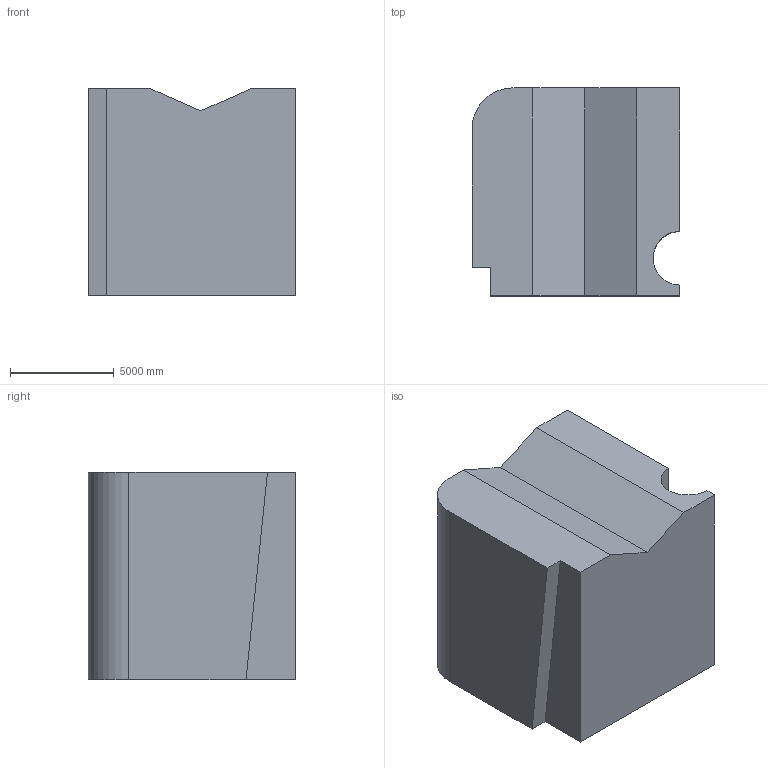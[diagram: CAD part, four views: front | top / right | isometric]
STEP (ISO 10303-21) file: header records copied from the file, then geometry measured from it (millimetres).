
FILE_DESCRIPTION (( 'STEP AP203' ), '1' );
FILE_NAME ('45.STEP', '2022-09-01T11:45:02', ( 'user' ), ( '' ), 'SwSTEP 2.0', 'SolidWorks 2021', '' );
FILE_SCHEMA (( 'CONFIG_CONTROL_DESIGN' ));
Length unit declared in the file: centimetre
Products named in the file (1): 45
Bounding box: 10000 x 10000 x 10000 mm (x, y, z)
Volume: 920177661040.1 mm3; surface area: 602504477.8 mm2
Topology: 1 solids, 1 shells, 19 faces, 48 edges, 32 vertices
Faces by surface type: plane 16, cylinder 3
Entity records: 645 total; most frequent: CARTESIAN_POINT 100, ORIENTED_EDGE 96, DIRECTION 94, EDGE_CURVE 48, VECTOR 42, LINE 42, VERTEX_POINT 32, AXIS2_PLACEMENT_3D 26
